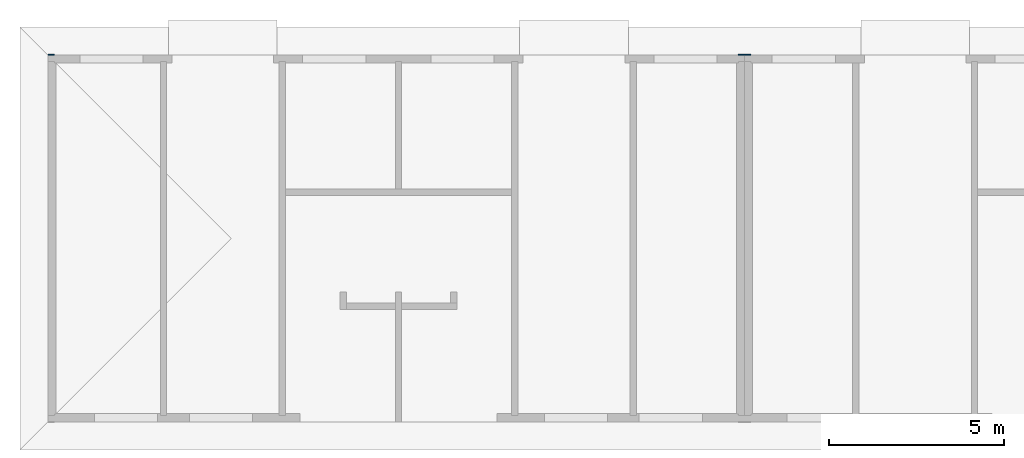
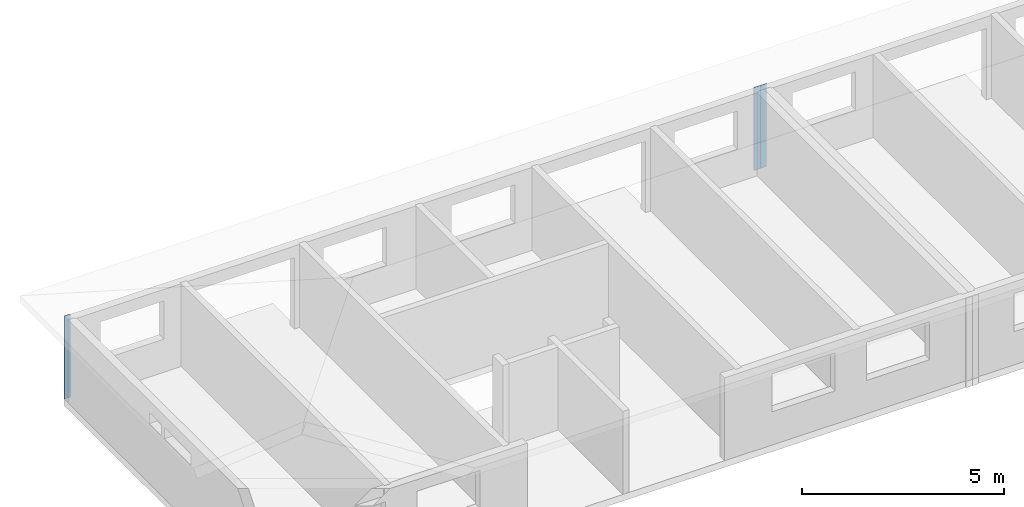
# One storey, part 6 of 9: 3 walls.
"""IFC2X3 building model written with IfcOpenShell, lengths in millimetres."""

from ifc_helpers import new_model, entity, si_unit, converted_unit, frame, frame_2d, origin, place, context, subcontext, project, spatial, rectangle, extrude, material, layer, layer_set, layer_usage, element, save


model = new_model("IFC2X3")

# Units and contexts
model_context = context("Model", 3, precision=1e-05, world=origin())
plan_context = context("Plan", 3, precision=1e-05, world=origin())
body_context = subcontext(model_context, "Body", "Model", "MODEL_VIEW")
ifc_project = project(units=[si_unit("LENGTHUNIT", "METRE", prefix="MILLI"), converted_unit("PLANEANGLEUNIT", "DEGREE", entity("IfcPlaneAngleMeasure", 0.0174532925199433), si_unit("PLANEANGLEUNIT", "RADIAN"), dimensions=[0, 0, 0, 0, 0, 0, 0]), si_unit("AREAUNIT", "SQUARE_METRE"), si_unit("VOLUMEUNIT", "CUBIC_METRE")], contexts=[model_context, plan_context])

# Building, storey
building_placement = place(None, origin())
building = spatial("IfcBuilding", under=ifc_project, at=building_placement, Name="Bâtiment", CompositionType="ELEMENT")
storey_placement = place(building_placement, frame((0.0, 0.0, 8100.0), z_axis=(0.0, 0.0, 1.0), x_axis=(1.0, 0.0, 0.0)))
storey = spatial("IfcBuildingStorey", under=building, at=storey_placement, Name="r+3", CompositionType="ELEMENT", Elevation=8100.0)

# Walls
ifc_material_1 = material(Name="moellons")
ifc_layer_1 = layer(ifc_material_1, 19.99999999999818)
ifc_layer_set_1 = layer_set([ifc_layer_1])
ifc_layer_usage_1 = layer_usage(ifc_layer_set_1, "AXIS2", "POSITIVE", 0.0)
wall_1_placement = place(storey_placement, frame((-3.636754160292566e-12, 10490.07776548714, 0.0), z_axis=(0.0, 0.0, 1.0), x_axis=(1.0, 0.0, 0.0)))
element("IfcWallStandardCase", 1, at=wall_1_placement, inside=storey, material=ifc_layer_usage_1, context=body_context, shape_type="SweptSolid", body=[
    extrude(rectangle(XDim=180.0, YDim=19.99999999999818, at=frame_2d((90.0, 9.99999999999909), x_axis=(1.0, 0.0))), frame((-1.2246467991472e-15, -19.99999999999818, 0.0), z_axis=(0.0, 0.0, 1.0), x_axis=(1.0, 0.0, 0.0)), (0.0, 0.0, 1.0), 2500.0),
])
ifc_material_2 = material(Name="moellons")
ifc_layer_2 = layer(ifc_material_2, 20.0)
ifc_layer_set_2 = layer_set([ifc_layer_2])
ifc_layer_usage_2 = layer_usage(ifc_layer_set_2, "AXIS2", "POSITIVE", 0.0)
wall_2_placement = place(storey_placement, frame((19849.99999999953, 10490.07776548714, 0.0), z_axis=(0.0, 0.0, 1.0), x_axis=(1.0, 0.0, 0.0)))
element("IfcWallStandardCase", 2, at=wall_2_placement, inside=storey, material=ifc_layer_usage_2, context=body_context, shape_type="SweptSolid", body=[
    extrude(rectangle(XDim=180.0, YDim=20.0, at=frame_2d((90.0, 10.0), x_axis=(1.0, 0.0))), frame((0.0, -20.0, 0.0), z_axis=(0.0, 0.0, 1.0), x_axis=(1.0, 0.0, 0.0)), (0.0, 0.0, 1.0), 2500.0),
])
ifc_material_3 = material(Name="moellons")
ifc_layer_3 = layer(ifc_material_3, 20.00000000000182)
ifc_layer_set_3 = layer_set([ifc_layer_3])
ifc_layer_usage_3 = layer_usage(ifc_layer_set_3, "AXIS2", "POSITIVE", 0.0)
wall_3_placement = place(storey_placement, frame((19849.99999999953, 10470.07776548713, 0.0), z_axis=(0.0, 0.0, 1.0), x_axis=(-1.0, 0.0, 0.0)))
element("IfcWallStandardCase", 3, at=wall_3_placement, inside=storey, material=ifc_layer_usage_3, context=body_context, shape_type="SweptSolid", body=[
    extrude(rectangle(XDim=180.0, YDim=20.00000000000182, at=frame_2d((90.0, 10.00000000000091), x_axis=(1.0, 0.0))), frame((0.0, -20.00000000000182, 0.0), z_axis=(0.0, 0.0, 1.0), x_axis=(1.0, 0.0, 0.0)), (0.0, 0.0, 1.0), 2500.0),
])

save(model, "model.ifc")
